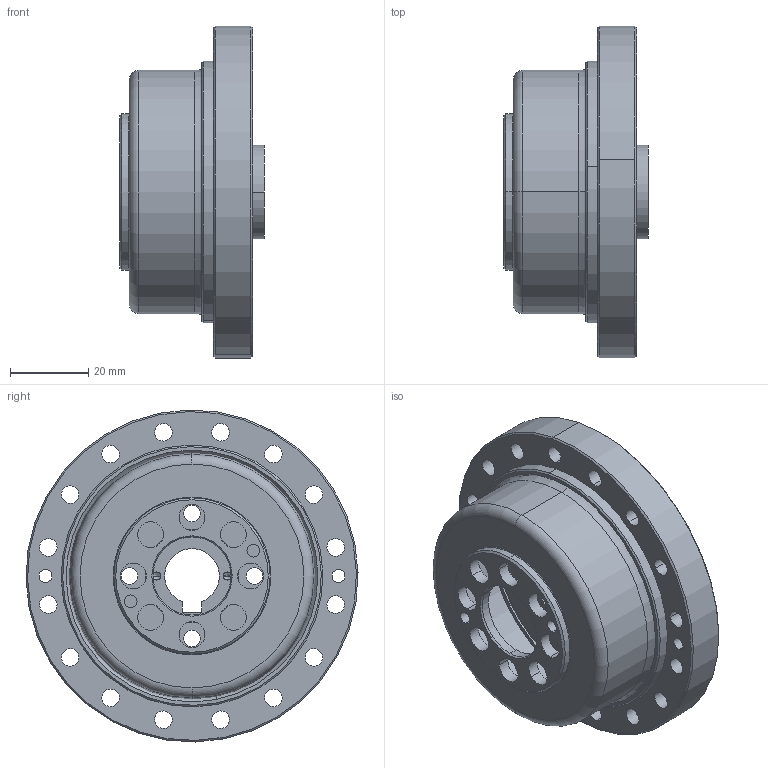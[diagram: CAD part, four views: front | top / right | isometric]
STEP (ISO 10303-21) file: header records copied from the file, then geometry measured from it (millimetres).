
FILE_DESCRIPTION (( 'STEP AP203' ), '1' );
FILE_NAME ('FCG-25-XXX-CJ.STEP', '2023-01-17T09:20:20', ( '微软用户' ), ( '微软中国' ), 'SwSTEP 2.0', 'SolidWorks 2016', '' );
FILE_SCHEMA (( 'CONFIG_CONTROL_DESIGN' ));
Length unit declared in the file: millimetre
Products named in the file (1): FCG-25-XXX-CJ
Bounding box: 37 x 84.98 x 84.98 mm (x, y, z)
Volume: 55745 mm3; surface area: 50504.9 mm2
Topology: 30 solids, 30 shells, 335 faces, 901 edges, 587 vertices
Faces by surface type: cylinder 167, plane 70, sphere 46, cone 30, torus 22
Entity records: 10039 total; most frequent: DIRECTION 1986, CARTESIAN_POINT 1636, ORIENTED_EDGE 1564, AXIS2_PLACEMENT_3D 868, EDGE_CURVE 782, CIRCLE 532, VERTEX_POINT 518, EDGE_LOOP 422
